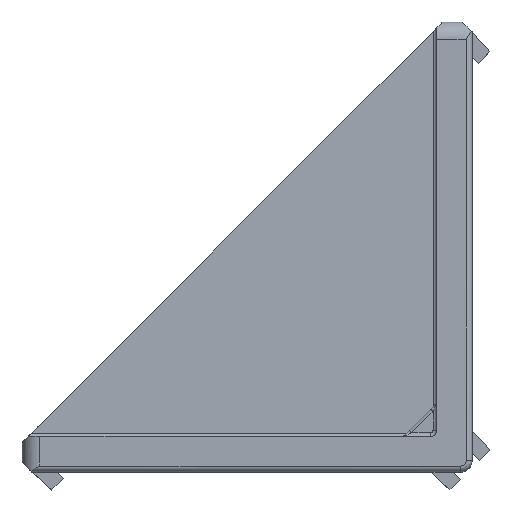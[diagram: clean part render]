
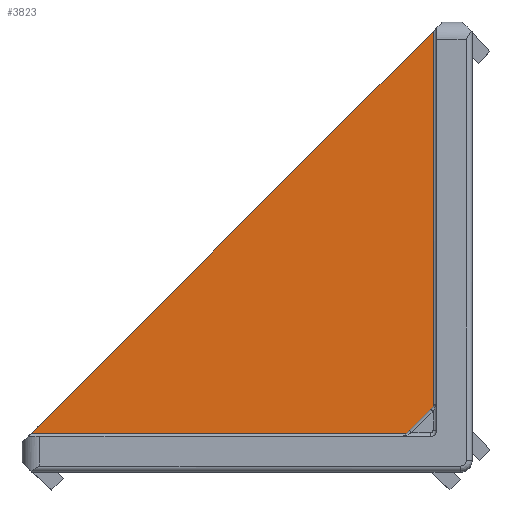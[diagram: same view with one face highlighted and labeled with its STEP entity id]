
A CAD part, top view. The second image highlights one B-rep face of the part: STEP entity #3823.
In plain terms, the highlighted planar face has unit normal (-0.012, 0.012, 1).
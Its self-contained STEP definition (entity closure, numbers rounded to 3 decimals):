
#13 = AXIS2_PLACEMENT_3D ( 'NONE', #2874, #3399, #279 ) ;
#59 = CARTESIAN_POINT ( 'NONE',  ( -3.297, 3.469, -5.584 ) ) ;
#279 = DIRECTION ( 'NONE',  ( 1., 0., 0.012 ) ) ;
#395 = DIRECTION ( 'NONE',  ( 1., 0., 0.012 ) ) ;
#519 = LINE ( 'NONE', #5639, #1903 ) ;
#998 = DIRECTION ( 'NONE',  ( -0.707, -0.707, 0. ) ) ;
#1062 = VERTEX_POINT ( 'NONE', #3679 ) ;
#1083 = CARTESIAN_POINT ( 'NONE',  ( -3.296, 37.204, -6. ) ) ;
#1227 = FACE_OUTER_BOUND ( 'NONE', #1295, .T. ) ;
#1295 = EDGE_LOOP ( 'NONE', ( #4671, #4039, #4183, #5880 ) ) ;
#1607 = CARTESIAN_POINT ( 'NONE',  ( -3.496, 3.296, -5.584 ) ) ;
#1717 = VERTEX_POINT ( 'NONE', #6505 ) ;
#1903 = VECTOR ( 'NONE', #998, 1000. ) ;
#2038 = DIRECTION ( 'NONE',  ( 0., -1., 0.012 ) ) ;
#2050 = EDGE_CURVE ( 'NONE', #2810, #1717, #519, .T. ) ;
#2161 = EDGE_CURVE ( 'NONE', #1717, #1062, #2630, .T. ) ;
#2630 = LINE ( 'NONE', #5062, #6559 ) ;
#2666 = CARTESIAN_POINT ( 'NONE',  ( -3.336, 3.373, -5.583 ) ) ;
#2810 = VERTEX_POINT ( 'NONE', #1083 ) ;
#2874 = CARTESIAN_POINT ( 'NONE',  ( -37.407, 3.296, -6.003 ) ) ;
#3182 = CARTESIAN_POINT ( 'NONE',  ( -3.302, 3.443, -5.583 ) ) ;
#3299 = EDGE_CURVE ( 'NONE', #1062, #5160, #4589, .T. ) ;
#3347 = PLANE ( 'NONE',  #13 ) ;
#3399 = DIRECTION ( 'NONE',  ( -0.012, 0.012, 1. ) ) ;
#3663 = CARTESIAN_POINT ( 'NONE',  ( -3.443, 3.297, -5.583 ) ) ;
#3679 = CARTESIAN_POINT ( 'NONE',  ( -3.496, 3.296, -5.584 ) ) ;
#3708 = CARTESIAN_POINT ( 'NONE',  ( -3.296, 3.496, -5.584 ) ) ;
#3757 = LINE ( 'NONE', #4629, #6637 ) ;
#3823 = ADVANCED_FACE ( 'NONE', ( #1227 ), #3347, .T. ) ;
#4039 = ORIENTED_EDGE ( 'NONE', *, *, #2161, .T. ) ;
#4183 = ORIENTED_EDGE ( 'NONE', *, *, #3299, .T. ) ;
#4211 = EDGE_CURVE ( 'NONE', #2810, #5160, #3757, .T. ) ;
#4589 = B_SPLINE_CURVE_WITH_KNOTS ( 'NONE', 3,
 ( #1607, #3663, #5747, #2666, #6252, #3182, #59, #3708 ),
 .UNSPECIFIED., .F., .F.,
 ( 4, 2, 2, 4 ),
 ( 0., 0.5, 0.75, 1. ),
 .UNSPECIFIED. ) ;
#4629 = CARTESIAN_POINT ( 'NONE',  ( -3.296, 20.598, -5.795 ) ) ;
#4671 = ORIENTED_EDGE ( 'NONE', *, *, #2050, .T. ) ;
#5062 = CARTESIAN_POINT ( 'NONE',  ( -20.25, 3.296, -5.791 ) ) ;
#5160 = VERTEX_POINT ( 'NONE', #6319 ) ;
#5639 = CARTESIAN_POINT ( 'NONE',  ( -20.25, 20.25, -6. ) ) ;
#5747 = CARTESIAN_POINT ( 'NONE',  ( -3.392, 3.318, -5.583 ) ) ;
#5880 = ORIENTED_EDGE ( 'NONE', *, *, #4211, .F. ) ;
#6252 = CARTESIAN_POINT ( 'NONE',  ( -3.321, 3.396, -5.583 ) ) ;
#6319 = CARTESIAN_POINT ( 'NONE',  ( -3.296, 3.496, -5.584 ) ) ;
#6505 = CARTESIAN_POINT ( 'NONE',  ( -37.204, 3.296, -6. ) ) ;
#6559 = VECTOR ( 'NONE', #395, 1000. ) ;
#6637 = VECTOR ( 'NONE', #2038, 1000. ) ;
